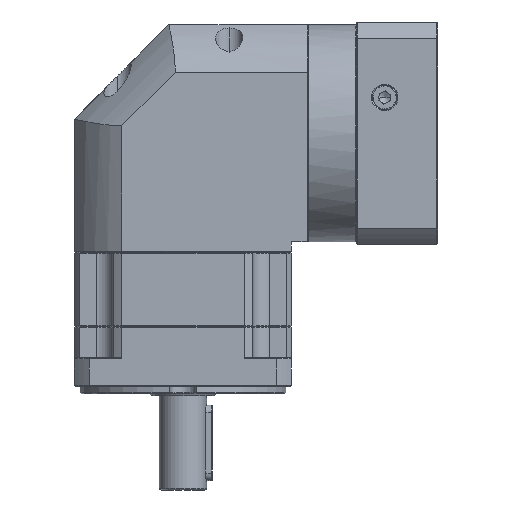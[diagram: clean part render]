
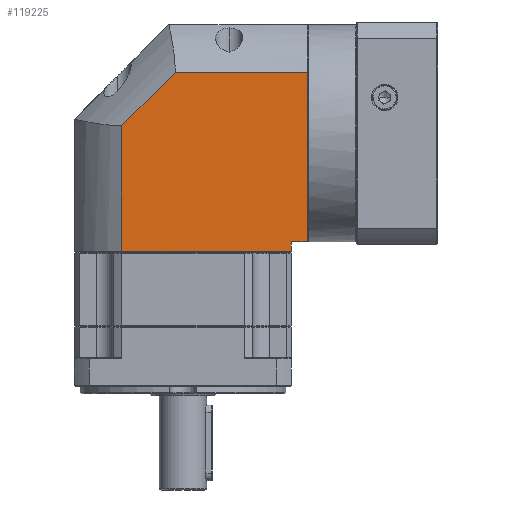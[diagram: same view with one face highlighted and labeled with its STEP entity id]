
A CAD part, front view. The second image highlights one B-rep face of the part: STEP entity #119225.
In plain terms, the highlighted planar face has unit normal (0, -1, 0).
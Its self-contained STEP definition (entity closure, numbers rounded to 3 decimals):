
#2082 = CARTESIAN_POINT ( 'NONE',  ( 4.124, -12.437, -76.237 ) ) ;
#3713 = CARTESIAN_POINT ( 'NONE',  ( -20.976, -12.437, -76.237 ) ) ;
#6562 = ORIENTED_EDGE ( 'NONE', *, *, #48395, .F. ) ;
#7959 = VECTOR ( 'NONE', #10156, 1000. ) ;
#9656 = CARTESIAN_POINT ( 'NONE',  ( -20.976, -12.437, -71.237 ) ) ;
#10156 = DIRECTION ( 'NONE',  ( 1., 0., 0. ) ) ;
#13740 = CARTESIAN_POINT ( 'NONE',  ( 4.124, -12.437, -9.676 ) ) ;
#16014 = VERTEX_POINT ( 'NONE', #132192 ) ;
#16901 = EDGE_CURVE ( 'NONE', #124760, #130246, #97643, .T. ) ;
#18094 = EDGE_CURVE ( 'NONE', #130246, #23509, #29167, .T. ) ;
#18316 = ORIENTED_EDGE ( 'NONE', *, *, #16901, .F. ) ;
#18715 = VECTOR ( 'NONE', #20813, 1000. ) ;
#19118 = CARTESIAN_POINT ( 'NONE',  ( 4.124, -12.437, -82.737 ) ) ;
#19895 = DIRECTION ( 'NONE',  ( 0., 1., 0. ) ) ;
#20813 = DIRECTION ( 'NONE',  ( -1., 0., 0. ) ) ;
#21345 = EDGE_LOOP ( 'NONE', ( #119734, #25531, #131759, #50434, #6562, #101384, #18316 ) ) ;
#23509 = VERTEX_POINT ( 'NONE', #110410 ) ;
#25531 = ORIENTED_EDGE ( 'NONE', *, *, #135191, .F. ) ;
#25926 = CARTESIAN_POINT ( 'NONE',  ( 32.462, -12.437, 18.663 ) ) ;
#26530 = CARTESIAN_POINT ( 'NONE',  ( 94.024, -12.437, -71.237 ) ) ;
#29167 = LINE ( 'NONE', #19118, #32472 ) ;
#32472 = VECTOR ( 'NONE', #50309, 1000. ) ;
#34195 = VERTEX_POINT ( 'NONE', #25926 ) ;
#40587 = VERTEX_POINT ( 'NONE', #106403 ) ;
#48395 = EDGE_CURVE ( 'NONE', #23509, #34195, #62210, .T. ) ;
#50309 = DIRECTION ( 'NONE',  ( 0., 0., 1. ) ) ;
#50434 = ORIENTED_EDGE ( 'NONE', *, *, #76060, .F. ) ;
#56549 = DIRECTION ( 'NONE',  ( 0.707, 0., 0.707 ) ) ;
#62210 = LINE ( 'NONE', #13740, #67122 ) ;
#67122 = VECTOR ( 'NONE', #56549, 1000. ) ;
#73578 = CARTESIAN_POINT ( 'NONE',  ( 94.024, -12.437, -76.237 ) ) ;
#74185 = LINE ( 'NONE', #135564, #125755 ) ;
#75231 = LINE ( 'NONE', #9656, #18715 ) ;
#75964 = VERTEX_POINT ( 'NONE', #26530 ) ;
#76060 = EDGE_CURVE ( 'NONE', #34195, #40587, #122704, .T. ) ;
#78293 = LINE ( 'NONE', #101681, #104982 ) ;
#78707 = EDGE_CURVE ( 'NONE', #75964, #124760, #78293, .T. ) ;
#80049 = FACE_OUTER_BOUND ( 'NONE', #21345, .T. ) ;
#83117 = CARTESIAN_POINT ( 'NONE',  ( -20.976, -12.437, 18.663 ) ) ;
#84949 = PLANE ( 'NONE',  #117636 ) ;
#88750 = DIRECTION ( 'NONE',  ( -1., 0., 0. ) ) ;
#95587 = CARTESIAN_POINT ( 'NONE',  ( -20.976, -12.437, -82.737 ) ) ;
#97643 = LINE ( 'NONE', #3713, #137455 ) ;
#101384 = ORIENTED_EDGE ( 'NONE', *, *, #18094, .F. ) ;
#101681 = CARTESIAN_POINT ( 'NONE',  ( 94.024, -12.437, -82.737 ) ) ;
#104982 = VECTOR ( 'NONE', #132792, 1000. ) ;
#106403 = CARTESIAN_POINT ( 'NONE',  ( 102.424, -12.437, 18.663 ) ) ;
#110410 = CARTESIAN_POINT ( 'NONE',  ( 4.124, -12.437, -9.676 ) ) ;
#114692 = DIRECTION ( 'NONE',  ( 1., 0., 0. ) ) ;
#117636 = AXIS2_PLACEMENT_3D ( 'NONE', #95587, #19895, #114692 ) ;
#119225 = ADVANCED_FACE ( 'NONE', ( #80049 ), #84949, .F. ) ;
#119734 = ORIENTED_EDGE ( 'NONE', *, *, #78707, .F. ) ;
#122704 = LINE ( 'NONE', #83117, #7959 ) ;
#124445 = DIRECTION ( 'NONE',  ( 0., 0., -1. ) ) ;
#124760 = VERTEX_POINT ( 'NONE', #73578 ) ;
#125755 = VECTOR ( 'NONE', #124445, 1000. ) ;
#129475 = EDGE_CURVE ( 'NONE', #40587, #16014, #74185, .T. ) ;
#130246 = VERTEX_POINT ( 'NONE', #2082 ) ;
#131759 = ORIENTED_EDGE ( 'NONE', *, *, #129475, .F. ) ;
#132192 = CARTESIAN_POINT ( 'NONE',  ( 102.424, -12.437, -71.237 ) ) ;
#132792 = DIRECTION ( 'NONE',  ( 0., 0., -1. ) ) ;
#135191 = EDGE_CURVE ( 'NONE', #16014, #75964, #75231, .T. ) ;
#135564 = CARTESIAN_POINT ( 'NONE',  ( 102.424, -12.437, -82.737 ) ) ;
#137455 = VECTOR ( 'NONE', #88750, 1000. ) ;
